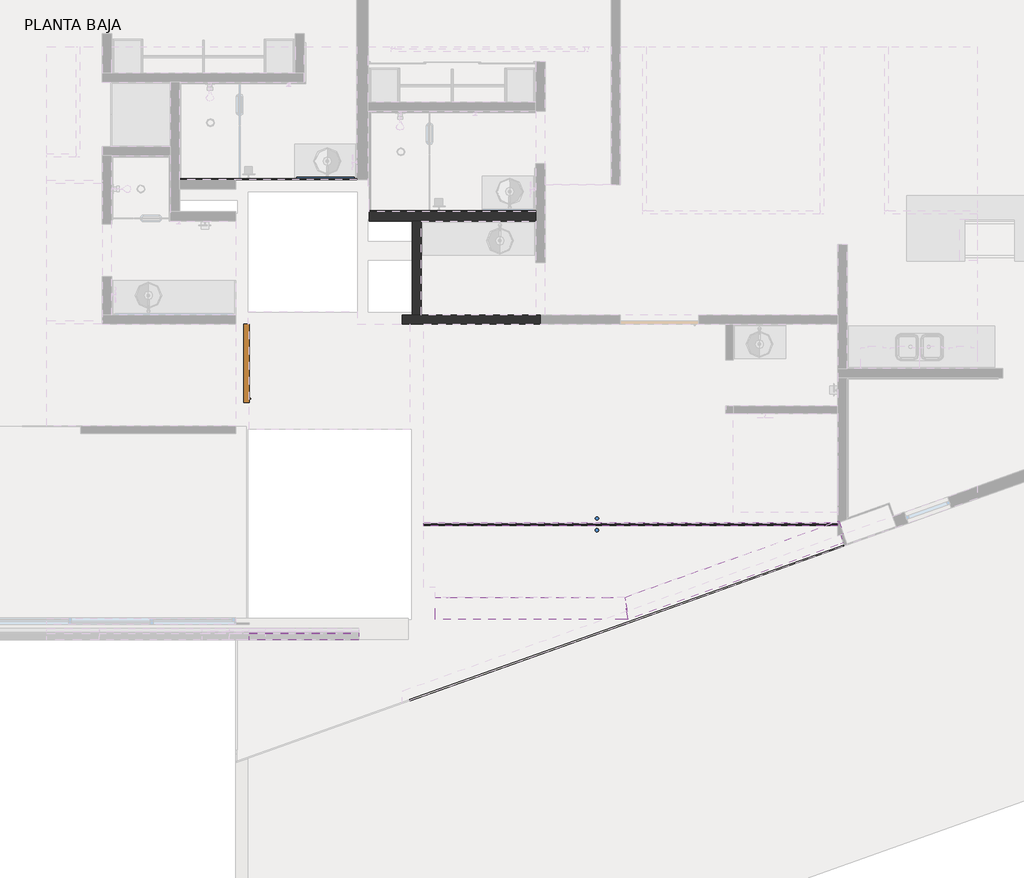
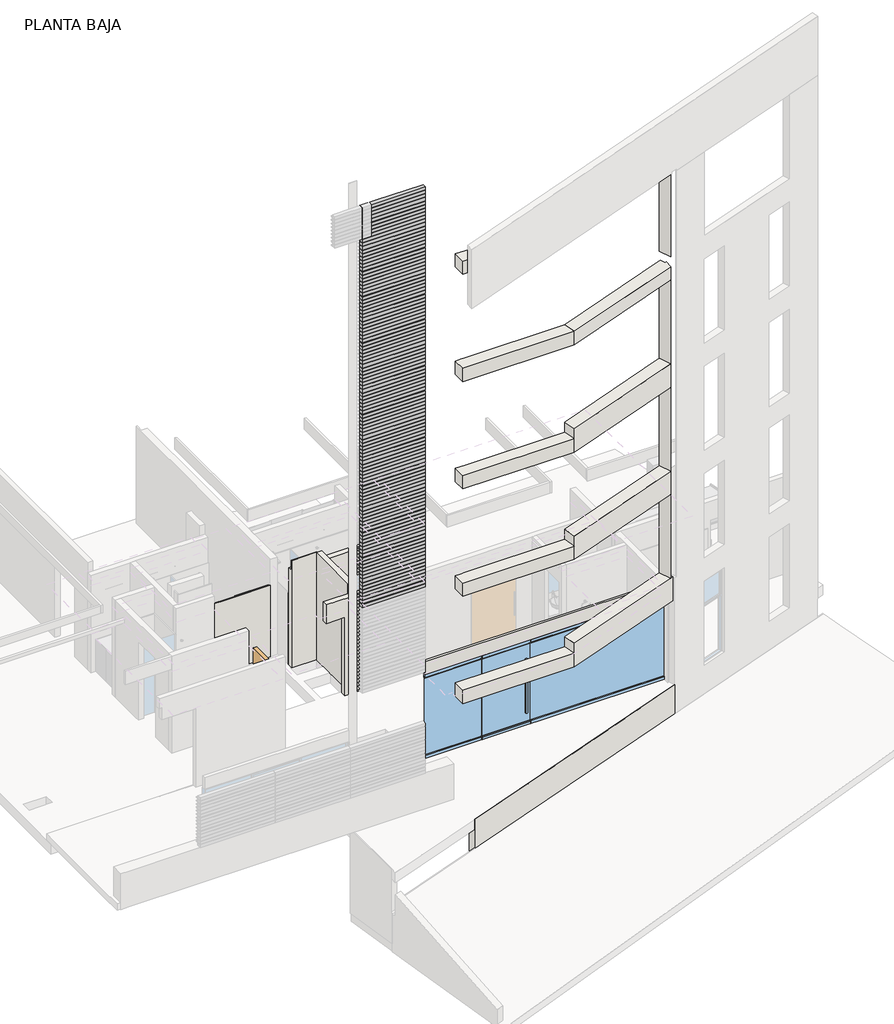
# One storey, part 4 of 8: 112 plates, 9 walls, 2 windows, 1 door.
"""IFC4 building model written with IfcOpenShell, lengths in millimetres."""

from ifc_helpers import new_model, si_unit, frame, origin, place, context, project, spatial, polyline, outline, extrude, faceted_brep, transform, mapped, element, save
from components import door_120_x_220_cm_1a80d65d, plate_64fcae3b, window_fa425d28, window_f6d1640f

model = new_model("IFC4")

# Units and contexts
model_context = context("Model", 3, world=origin())
ifc_project = project(units=[si_unit("LENGTHUNIT", "METRE", prefix="MILLI")], contexts=[model_context])

# Site, building, storey
site = spatial("IfcSite", under=ifc_project)
building = spatial("IfcBuilding", under=site)
storey = spatial("IfcBuildingStorey", under=building, Name="PLANTA BAJA", Elevation=0.0)

# Door
placement = place(None, origin())
door_120_x_220_cm_shape = door_120_x_220_cm_1a80d65d(model_context)
element("IfcDoor", 1, ObjectType="PUERTA ACCESO_PIVOT : 120 x 220 cm", at=placement, inside=storey, context=model_context, shape_type="MappedRepresentation", body=[
    mapped(door_120_x_220_cm_shape, transform((40339.5059119, 28707.1436004, 0.0), x_axis=(0.0, 1.0, 0.0), y_axis=(-1.0, 0.0, 0.0), z_axis=(0.0, 0.0, 1.0))),
])

# Plates
plate_shape = plate_64fcae3b(model_context)
element("IfcPlate", 2, ObjectType="Panel del sistema vacío : Vacío", at=placement, inside=storey, context=model_context, shape_type="MappedRepresentation", body=[
    mapped(plate_shape, transform((41279.5059119, 25044.0111729, 6218.7086093), x_axis=(-1.0, 0.0, 0.0), y_axis=(0.0, -1.0, 0.0), z_axis=(0.0, 0.0, 1.0))),
])
element("IfcPlate", 3, ObjectType="Panel del sistema vacío : Vacío", at=placement, inside=storey, context=model_context, shape_type="MappedRepresentation", body=[
    mapped(plate_shape, transform((41279.5059119, 25044.0111729, 6318.6754967), x_axis=(-1.0, 0.0, 0.0), y_axis=(0.0, -1.0, 0.0), z_axis=(0.0, 0.0, 1.0))),
])
element("IfcPlate", 4, ObjectType="Panel del sistema vacío : Vacío", at=placement, inside=storey, context=model_context, shape_type="MappedRepresentation", body=[
    mapped(plate_shape, transform((41279.5059119, 25044.0111729, 6418.6423841), x_axis=(-1.0, 0.0, 0.0), y_axis=(0.0, -1.0, 0.0), z_axis=(0.0, 0.0, 1.0))),
])
element("IfcPlate", 5, ObjectType="Panel del sistema vacío : Vacío", at=placement, inside=storey, context=model_context, shape_type="MappedRepresentation", body=[
    mapped(plate_shape, transform((41279.5059119, 25044.0111729, 6518.6092715), x_axis=(-1.0, 0.0, 0.0), y_axis=(0.0, -1.0, 0.0), z_axis=(0.0, 0.0, 1.0))),
])
element("IfcPlate", 6, ObjectType="Panel del sistema vacío : Vacío", at=placement, inside=storey, context=model_context, shape_type="MappedRepresentation", body=[
    mapped(plate_shape, transform((41279.5059119, 25044.0111729, 6618.5761589), x_axis=(-1.0, 0.0, 0.0), y_axis=(0.0, -1.0, 0.0), z_axis=(0.0, 0.0, 1.0))),
])
element("IfcPlate", 7, ObjectType="Panel del sistema vacío : Vacío", at=placement, inside=storey, context=model_context, shape_type="MappedRepresentation", body=[
    mapped(plate_shape, transform((41279.5059119, 25044.0111729, 6718.5430464), x_axis=(-1.0, 0.0, 0.0), y_axis=(0.0, -1.0, 0.0), z_axis=(0.0, 0.0, 1.0))),
])
element("IfcPlate", 8, ObjectType="Panel del sistema vacío : Vacío", at=placement, inside=storey, context=model_context, shape_type="MappedRepresentation", body=[
    mapped(plate_shape, transform((41279.5059119, 25044.0111729, 6818.5099338), x_axis=(-1.0, 0.0, 0.0), y_axis=(0.0, -1.0, 0.0), z_axis=(0.0, 0.0, 1.0))),
])
element("IfcPlate", 9, ObjectType="Panel del sistema vacío : Vacío", at=placement, inside=storey, context=model_context, shape_type="MappedRepresentation", body=[
    mapped(plate_shape, transform((41279.5059119, 25044.0111729, 6918.4768212), x_axis=(-1.0, 0.0, 0.0), y_axis=(0.0, -1.0, 0.0), z_axis=(0.0, 0.0, 1.0))),
])
element("IfcPlate", 10, ObjectType="Panel del sistema vacío : Vacío", at=placement, inside=storey, context=model_context, shape_type="MappedRepresentation", body=[
    mapped(plate_shape, transform((41279.5059119, 25044.0111729, 7018.4437086), x_axis=(-1.0, 0.0, 0.0), y_axis=(0.0, -1.0, 0.0), z_axis=(0.0, 0.0, 1.0))),
])
element("IfcPlate", 11, ObjectType="Panel del sistema vacío : Vacío", at=placement, inside=storey, context=model_context, shape_type="MappedRepresentation", body=[
    mapped(plate_shape, transform((41279.5059119, 25044.0111729, 7118.410596), x_axis=(-1.0, 0.0, 0.0), y_axis=(0.0, -1.0, 0.0), z_axis=(0.0, 0.0, 1.0))),
])
element("IfcPlate", 12, ObjectType="Panel del sistema vacío : Vacío", at=placement, inside=storey, context=model_context, shape_type="MappedRepresentation", body=[
    mapped(plate_shape, transform((41279.5059119, 25044.0111729, 7218.3774834), x_axis=(-1.0, 0.0, 0.0), y_axis=(0.0, -1.0, 0.0), z_axis=(0.0, 0.0, 1.0))),
])
element("IfcPlate", 13, ObjectType="Panel del sistema vacío : Vacío", at=placement, inside=storey, context=model_context, shape_type="MappedRepresentation", body=[
    mapped(plate_shape, transform((41279.5059119, 25044.0111729, 7318.3443709), x_axis=(-1.0, 0.0, 0.0), y_axis=(0.0, -1.0, 0.0), z_axis=(0.0, 0.0, 1.0))),
])
element("IfcPlate", 14, ObjectType="Panel del sistema vacío : Vacío", at=placement, inside=storey, context=model_context, shape_type="MappedRepresentation", body=[
    mapped(plate_shape, transform((41279.5059119, 25044.0111729, 7418.3112583), x_axis=(-1.0, 0.0, 0.0), y_axis=(0.0, -1.0, 0.0), z_axis=(0.0, 0.0, 1.0))),
])
element("IfcPlate", 15, ObjectType="Panel del sistema vacío : Vacío", at=placement, inside=storey, context=model_context, shape_type="MappedRepresentation", body=[
    mapped(plate_shape, transform((41279.5059119, 25044.0111729, 7518.2781457), x_axis=(-1.0, 0.0, 0.0), y_axis=(0.0, -1.0, 0.0), z_axis=(0.0, 0.0, 1.0))),
])
element("IfcPlate", 16, ObjectType="Panel del sistema vacío : Vacío", at=placement, inside=storey, context=model_context, shape_type="MappedRepresentation", body=[
    mapped(plate_shape, transform((41279.5059119, 25044.0111729, 7618.2450331), x_axis=(-1.0, 0.0, 0.0), y_axis=(0.0, -1.0, 0.0), z_axis=(0.0, 0.0, 1.0))),
])
element("IfcPlate", 17, ObjectType="Panel del sistema vacío : Vacío", at=placement, inside=storey, context=model_context, shape_type="MappedRepresentation", body=[
    mapped(plate_shape, transform((41279.5059119, 25044.0111729, 7718.2119205), x_axis=(-1.0, 0.0, 0.0), y_axis=(0.0, -1.0, 0.0), z_axis=(0.0, 0.0, 1.0))),
])
element("IfcPlate", 18, ObjectType="Panel del sistema vacío : Vacío", at=placement, inside=storey, context=model_context, shape_type="MappedRepresentation", body=[
    mapped(plate_shape, transform((41279.5059119, 25044.0111729, 7818.1788079), x_axis=(-1.0, 0.0, 0.0), y_axis=(0.0, -1.0, 0.0), z_axis=(0.0, 0.0, 1.0))),
])
element("IfcPlate", 19, ObjectType="Panel del sistema vacío : Vacío", at=placement, inside=storey, context=model_context, shape_type="MappedRepresentation", body=[
    mapped(plate_shape, transform((41279.5059119, 25044.0111729, 7918.1456954), x_axis=(-1.0, 0.0, 0.0), y_axis=(0.0, -1.0, 0.0), z_axis=(0.0, 0.0, 1.0))),
])
element("IfcPlate", 20, ObjectType="Panel del sistema vacío : Vacío", at=placement, inside=storey, context=model_context, shape_type="MappedRepresentation", body=[
    mapped(plate_shape, transform((41279.5059119, 25044.0111729, 8018.1125828), x_axis=(-1.0, 0.0, 0.0), y_axis=(0.0, -1.0, 0.0), z_axis=(0.0, 0.0, 1.0))),
])
element("IfcPlate", 21, ObjectType="Panel del sistema vacío : Vacío", at=placement, inside=storey, context=model_context, shape_type="MappedRepresentation", body=[
    mapped(plate_shape, transform((41279.5059119, 25044.0111729, 8118.0794702), x_axis=(-1.0, 0.0, 0.0), y_axis=(0.0, -1.0, 0.0), z_axis=(0.0, 0.0, 1.0))),
])
element("IfcPlate", 22, ObjectType="Panel del sistema vacío : Vacío", at=placement, inside=storey, context=model_context, shape_type="MappedRepresentation", body=[
    mapped(plate_shape, transform((41279.5059119, 25044.0111729, 8218.0463576), x_axis=(-1.0, 0.0, 0.0), y_axis=(0.0, -1.0, 0.0), z_axis=(0.0, 0.0, 1.0))),
])
element("IfcPlate", 23, ObjectType="Panel del sistema vacío : Vacío", at=placement, inside=storey, context=model_context, shape_type="MappedRepresentation", body=[
    mapped(plate_shape, transform((41279.5059119, 25044.0111729, 8318.013245), x_axis=(-1.0, 0.0, 0.0), y_axis=(0.0, -1.0, 0.0), z_axis=(0.0, 0.0, 1.0))),
])
element("IfcPlate", 24, ObjectType="Panel del sistema vacío : Vacío", at=placement, inside=storey, context=model_context, shape_type="MappedRepresentation", body=[
    mapped(plate_shape, transform((41279.5059119, 25044.0111729, 8417.9801325), x_axis=(-1.0, 0.0, 0.0), y_axis=(0.0, -1.0, 0.0), z_axis=(0.0, 0.0, 1.0))),
])
element("IfcPlate", 25, ObjectType="Panel del sistema vacío : Vacío", at=placement, inside=storey, context=model_context, shape_type="MappedRepresentation", body=[
    mapped(plate_shape, transform((41279.5059119, 25044.0111729, 8517.9470199), x_axis=(-1.0, 0.0, 0.0), y_axis=(0.0, -1.0, 0.0), z_axis=(0.0, 0.0, 1.0))),
])
element("IfcPlate", 26, ObjectType="Panel del sistema vacío : Vacío", at=placement, inside=storey, context=model_context, shape_type="MappedRepresentation", body=[
    mapped(plate_shape, transform((41279.5059119, 25044.0111729, 8617.9139073), x_axis=(-1.0, 0.0, 0.0), y_axis=(0.0, -1.0, 0.0), z_axis=(0.0, 0.0, 1.0))),
])
element("IfcPlate", 27, ObjectType="Panel del sistema vacío : Vacío", at=placement, inside=storey, context=model_context, shape_type="MappedRepresentation", body=[
    mapped(plate_shape, transform((41279.5059119, 25044.0111729, 8717.8807947), x_axis=(-1.0, 0.0, 0.0), y_axis=(0.0, -1.0, 0.0), z_axis=(0.0, 0.0, 1.0))),
])
element("IfcPlate", 28, ObjectType="Panel del sistema vacío : Vacío", at=placement, inside=storey, context=model_context, shape_type="MappedRepresentation", body=[
    mapped(plate_shape, transform((41279.5059119, 25044.0111729, 8817.8476821), x_axis=(-1.0, 0.0, 0.0), y_axis=(0.0, -1.0, 0.0), z_axis=(0.0, 0.0, 1.0))),
])
element("IfcPlate", 29, ObjectType="Panel del sistema vacío : Vacío", at=placement, inside=storey, context=model_context, shape_type="MappedRepresentation", body=[
    mapped(plate_shape, transform((41279.5059119, 25044.0111729, 8917.8145695), x_axis=(-1.0, 0.0, 0.0), y_axis=(0.0, -1.0, 0.0), z_axis=(0.0, 0.0, 1.0))),
])
element("IfcPlate", 30, ObjectType="Panel del sistema vacío : Vacío", at=placement, inside=storey, context=model_context, shape_type="MappedRepresentation", body=[
    mapped(plate_shape, transform((41279.5059119, 25044.0111729, 9017.781457), x_axis=(-1.0, 0.0, 0.0), y_axis=(0.0, -1.0, 0.0), z_axis=(0.0, 0.0, 1.0))),
])
element("IfcPlate", 31, ObjectType="Panel del sistema vacío : Vacío", at=placement, inside=storey, context=model_context, shape_type="MappedRepresentation", body=[
    mapped(plate_shape, transform((41279.5059119, 25044.0111729, 9117.7483444), x_axis=(-1.0, 0.0, 0.0), y_axis=(0.0, -1.0, 0.0), z_axis=(0.0, 0.0, 1.0))),
])
element("IfcPlate", 32, ObjectType="Panel del sistema vacío : Vacío", at=placement, inside=storey, context=model_context, shape_type="MappedRepresentation", body=[
    mapped(plate_shape, transform((41279.5059119, 25044.0111729, 9217.7152318), x_axis=(-1.0, 0.0, 0.0), y_axis=(0.0, -1.0, 0.0), z_axis=(0.0, 0.0, 1.0))),
])
element("IfcPlate", 33, ObjectType="Panel del sistema vacío : Vacío", at=placement, inside=storey, context=model_context, shape_type="MappedRepresentation", body=[
    mapped(plate_shape, transform((41279.5059119, 25044.0111729, 9317.6821192), x_axis=(-1.0, 0.0, 0.0), y_axis=(0.0, -1.0, 0.0), z_axis=(0.0, 0.0, 1.0))),
])
element("IfcPlate", 34, ObjectType="Panel del sistema vacío : Vacío", at=placement, inside=storey, context=model_context, shape_type="MappedRepresentation", body=[
    mapped(plate_shape, transform((41279.5059119, 25044.0111729, 9417.6490066), x_axis=(-1.0, 0.0, 0.0), y_axis=(0.0, -1.0, 0.0), z_axis=(0.0, 0.0, 1.0))),
])
element("IfcPlate", 35, ObjectType="Panel del sistema vacío : Vacío", at=placement, inside=storey, context=model_context, shape_type="MappedRepresentation", body=[
    mapped(plate_shape, transform((41279.5059119, 25044.0111729, 9517.615894), x_axis=(-1.0, 0.0, 0.0), y_axis=(0.0, -1.0, 0.0), z_axis=(0.0, 0.0, 1.0))),
])
element("IfcPlate", 36, ObjectType="Panel del sistema vacío : Vacío", at=placement, inside=storey, context=model_context, shape_type="MappedRepresentation", body=[
    mapped(plate_shape, transform((41279.5059119, 25044.0111729, 9617.5827815), x_axis=(-1.0, 0.0, 0.0), y_axis=(0.0, -1.0, 0.0), z_axis=(0.0, 0.0, 1.0))),
])
element("IfcPlate", 37, ObjectType="Panel del sistema vacío : Vacío", at=placement, inside=storey, context=model_context, shape_type="MappedRepresentation", body=[
    mapped(plate_shape, transform((41279.5059119, 25044.0111729, 9717.5496689), x_axis=(-1.0, 0.0, 0.0), y_axis=(0.0, -1.0, 0.0), z_axis=(0.0, 0.0, 1.0))),
])
element("IfcPlate", 38, ObjectType="Panel del sistema vacío : Vacío", at=placement, inside=storey, context=model_context, shape_type="MappedRepresentation", body=[
    mapped(plate_shape, transform((41279.5059119, 25044.0111729, 9817.5165563), x_axis=(-1.0, 0.0, 0.0), y_axis=(0.0, -1.0, 0.0), z_axis=(0.0, 0.0, 1.0))),
])
element("IfcPlate", 39, ObjectType="Panel del sistema vacío : Vacío", at=placement, inside=storey, context=model_context, shape_type="MappedRepresentation", body=[
    mapped(plate_shape, transform((41279.5059119, 25044.0111729, 9917.4834437), x_axis=(-1.0, 0.0, 0.0), y_axis=(0.0, -1.0, 0.0), z_axis=(0.0, 0.0, 1.0))),
])
element("IfcPlate", 40, ObjectType="Panel del sistema vacío : Vacío", at=placement, inside=storey, context=model_context, shape_type="MappedRepresentation", body=[
    mapped(plate_shape, transform((41279.5059119, 25044.0111729, 10017.4503311), x_axis=(-1.0, 0.0, 0.0), y_axis=(0.0, -1.0, 0.0), z_axis=(0.0, 0.0, 1.0))),
])
element("IfcPlate", 41, ObjectType="Panel del sistema vacío : Vacío", at=placement, inside=storey, context=model_context, shape_type="MappedRepresentation", body=[
    mapped(plate_shape, transform((41279.5059119, 25044.0111729, 10117.4172185), x_axis=(-1.0, 0.0, 0.0), y_axis=(0.0, -1.0, 0.0), z_axis=(0.0, 0.0, 1.0))),
])
element("IfcPlate", 42, ObjectType="Panel del sistema vacío : Vacío", at=placement, inside=storey, context=model_context, shape_type="MappedRepresentation", body=[
    mapped(plate_shape, transform((41279.5059119, 25044.0111729, 10217.384106), x_axis=(-1.0, 0.0, 0.0), y_axis=(0.0, -1.0, 0.0), z_axis=(0.0, 0.0, 1.0))),
])
element("IfcPlate", 43, ObjectType="Panel del sistema vacío : Vacío", at=placement, inside=storey, context=model_context, shape_type="MappedRepresentation", body=[
    mapped(plate_shape, transform((41279.5059119, 25044.0111729, 10317.3509934), x_axis=(-1.0, 0.0, 0.0), y_axis=(0.0, -1.0, 0.0), z_axis=(0.0, 0.0, 1.0))),
])
element("IfcPlate", 44, ObjectType="Panel del sistema vacío : Vacío", at=placement, inside=storey, context=model_context, shape_type="MappedRepresentation", body=[
    mapped(plate_shape, transform((41279.5059119, 25044.0111729, 10417.3178808), x_axis=(-1.0, 0.0, 0.0), y_axis=(0.0, -1.0, 0.0), z_axis=(0.0, 0.0, 1.0))),
])
element("IfcPlate", 45, ObjectType="Panel del sistema vacío : Vacío", at=placement, inside=storey, context=model_context, shape_type="MappedRepresentation", body=[
    mapped(plate_shape, transform((41279.5059119, 25044.0111729, 10517.2847682), x_axis=(-1.0, 0.0, 0.0), y_axis=(0.0, -1.0, 0.0), z_axis=(0.0, 0.0, 1.0))),
])
element("IfcPlate", 46, ObjectType="Panel del sistema vacío : Vacío", at=placement, inside=storey, context=model_context, shape_type="MappedRepresentation", body=[
    mapped(plate_shape, transform((41279.5059119, 25044.0111729, 10617.2516556), x_axis=(-1.0, 0.0, 0.0), y_axis=(0.0, -1.0, 0.0), z_axis=(0.0, 0.0, 1.0))),
])
element("IfcPlate", 47, ObjectType="Panel del sistema vacío : Vacío", at=placement, inside=storey, context=model_context, shape_type="MappedRepresentation", body=[
    mapped(plate_shape, transform((41279.5059119, 25044.0111729, 10717.218543), x_axis=(-1.0, 0.0, 0.0), y_axis=(0.0, -1.0, 0.0), z_axis=(0.0, 0.0, 1.0))),
])
element("IfcPlate", 48, ObjectType="Panel del sistema vacío : Vacío", at=placement, inside=storey, context=model_context, shape_type="MappedRepresentation", body=[
    mapped(plate_shape, transform((41279.5059119, 25044.0111729, 10817.1854305), x_axis=(-1.0, 0.0, 0.0), y_axis=(0.0, -1.0, 0.0), z_axis=(0.0, 0.0, 1.0))),
])
element("IfcPlate", 49, ObjectType="Panel del sistema vacío : Vacío", at=placement, inside=storey, context=model_context, shape_type="MappedRepresentation", body=[
    mapped(plate_shape, transform((41279.5059119, 25044.0111729, 10917.1523179), x_axis=(-1.0, 0.0, 0.0), y_axis=(0.0, -1.0, 0.0), z_axis=(0.0, 0.0, 1.0))),
])
element("IfcPlate", 50, ObjectType="Panel del sistema vacío : Vacío", at=placement, inside=storey, context=model_context, shape_type="MappedRepresentation", body=[
    mapped(plate_shape, transform((41279.5059119, 25044.0111729, 11017.1192053), x_axis=(-1.0, 0.0, 0.0), y_axis=(0.0, -1.0, 0.0), z_axis=(0.0, 0.0, 1.0))),
])
element("IfcPlate", 51, ObjectType="Panel del sistema vacío : Vacío", at=placement, inside=storey, context=model_context, shape_type="MappedRepresentation", body=[
    mapped(plate_shape, transform((41279.5059119, 25044.0111729, 11117.0860927), x_axis=(-1.0, 0.0, 0.0), y_axis=(0.0, -1.0, 0.0), z_axis=(0.0, 0.0, 1.0))),
])
element("IfcPlate", 52, ObjectType="Panel del sistema vacío : Vacío", at=placement, inside=storey, context=model_context, shape_type="MappedRepresentation", body=[
    mapped(plate_shape, transform((41279.5059119, 25044.0111729, 11217.0529801), x_axis=(-1.0, 0.0, 0.0), y_axis=(0.0, -1.0, 0.0), z_axis=(0.0, 0.0, 1.0))),
])
element("IfcPlate", 53, ObjectType="Panel del sistema vacío : Vacío", at=placement, inside=storey, context=model_context, shape_type="MappedRepresentation", body=[
    mapped(plate_shape, transform((41279.5059119, 25044.0111729, 11317.0198675), x_axis=(-1.0, 0.0, 0.0), y_axis=(0.0, -1.0, 0.0), z_axis=(0.0, 0.0, 1.0))),
])
element("IfcPlate", 54, ObjectType="Panel del sistema vacío : Vacío", at=placement, inside=storey, context=model_context, shape_type="MappedRepresentation", body=[
    mapped(plate_shape, transform((41279.5059119, 25044.0111729, 11416.986755), x_axis=(-1.0, 0.0, 0.0), y_axis=(0.0, -1.0, 0.0), z_axis=(0.0, 0.0, 1.0))),
])
element("IfcPlate", 55, ObjectType="Panel del sistema vacío : Vacío", at=placement, inside=storey, context=model_context, shape_type="MappedRepresentation", body=[
    mapped(plate_shape, transform((41279.5059119, 25044.0111729, 11516.9536424), x_axis=(-1.0, 0.0, 0.0), y_axis=(0.0, -1.0, 0.0), z_axis=(0.0, 0.0, 1.0))),
])
element("IfcPlate", 56, ObjectType="Panel del sistema vacío : Vacío", at=placement, inside=storey, context=model_context, shape_type="MappedRepresentation", body=[
    mapped(plate_shape, transform((41279.5059119, 25044.0111729, 11616.9205298), x_axis=(-1.0, 0.0, 0.0), y_axis=(0.0, -1.0, 0.0), z_axis=(0.0, 0.0, 1.0))),
])
element("IfcPlate", 57, ObjectType="Panel del sistema vacío : Vacío", at=placement, inside=storey, context=model_context, shape_type="MappedRepresentation", body=[
    mapped(plate_shape, transform((41279.5059119, 25044.0111729, 11716.8874172), x_axis=(-1.0, 0.0, 0.0), y_axis=(0.0, -1.0, 0.0), z_axis=(0.0, 0.0, 1.0))),
])
element("IfcPlate", 58, ObjectType="Panel del sistema vacío : Vacío", at=placement, inside=storey, context=model_context, shape_type="MappedRepresentation", body=[
    mapped(plate_shape, transform((41279.5059119, 25044.0111729, 11816.8543046), x_axis=(-1.0, 0.0, 0.0), y_axis=(0.0, -1.0, 0.0), z_axis=(0.0, 0.0, 1.0))),
])
element("IfcPlate", 59, ObjectType="Panel del sistema vacío : Vacío", at=placement, inside=storey, context=model_context, shape_type="MappedRepresentation", body=[
    mapped(plate_shape, transform((41279.5059119, 25044.0111729, 11916.8211921), x_axis=(-1.0, 0.0, 0.0), y_axis=(0.0, -1.0, 0.0), z_axis=(0.0, 0.0, 1.0))),
])
element("IfcPlate", 60, ObjectType="Panel del sistema vacío : Vacío", at=placement, inside=storey, context=model_context, shape_type="MappedRepresentation", body=[
    mapped(plate_shape, transform((41279.5059119, 25044.0111729, 12016.7880795), x_axis=(-1.0, 0.0, 0.0), y_axis=(0.0, -1.0, 0.0), z_axis=(0.0, 0.0, 1.0))),
])
element("IfcPlate", 61, ObjectType="Panel del sistema vacío : Vacío", at=placement, inside=storey, context=model_context, shape_type="MappedRepresentation", body=[
    mapped(plate_shape, transform((41279.5059119, 25044.0111729, 12116.7549669), x_axis=(-1.0, 0.0, 0.0), y_axis=(0.0, -1.0, 0.0), z_axis=(0.0, 0.0, 1.0))),
])
element("IfcPlate", 62, ObjectType="Panel del sistema vacío : Vacío", at=placement, inside=storey, context=model_context, shape_type="MappedRepresentation", body=[
    mapped(plate_shape, transform((41279.5059119, 25044.0111729, 12216.7218543), x_axis=(-1.0, 0.0, 0.0), y_axis=(0.0, -1.0, 0.0), z_axis=(0.0, 0.0, 1.0))),
])
element("IfcPlate", 63, ObjectType="Panel del sistema vacío : Vacío", at=placement, inside=storey, context=model_context, shape_type="MappedRepresentation", body=[
    mapped(plate_shape, transform((41279.5059119, 25044.0111729, 12316.6887417), x_axis=(-1.0, 0.0, 0.0), y_axis=(0.0, -1.0, 0.0), z_axis=(0.0, 0.0, 1.0))),
])
element("IfcPlate", 64, ObjectType="Panel del sistema vacío : Vacío", at=placement, inside=storey, context=model_context, shape_type="MappedRepresentation", body=[
    mapped(plate_shape, transform((41279.5059119, 25044.0111729, 12416.6556291), x_axis=(-1.0, 0.0, 0.0), y_axis=(0.0, -1.0, 0.0), z_axis=(0.0, 0.0, 1.0))),
])
element("IfcPlate", 65, ObjectType="Panel del sistema vacío : Vacío", at=placement, inside=storey, context=model_context, shape_type="MappedRepresentation", body=[
    mapped(plate_shape, transform((41279.5059119, 25044.0111729, 12516.6225166), x_axis=(-1.0, 0.0, 0.0), y_axis=(0.0, -1.0, 0.0), z_axis=(0.0, 0.0, 1.0))),
])
element("IfcPlate", 66, ObjectType="Panel del sistema vacío : Vacío", at=placement, inside=storey, context=model_context, shape_type="MappedRepresentation", body=[
    mapped(plate_shape, transform((41279.5059119, 25044.0111729, 12616.589404), x_axis=(-1.0, 0.0, 0.0), y_axis=(0.0, -1.0, 0.0), z_axis=(0.0, 0.0, 1.0))),
])
element("IfcPlate", 67, ObjectType="Panel del sistema vacío : Vacío", at=placement, inside=storey, context=model_context, shape_type="MappedRepresentation", body=[
    mapped(plate_shape, transform((41279.5059119, 25044.0111729, 12716.5562914), x_axis=(-1.0, 0.0, 0.0), y_axis=(0.0, -1.0, 0.0), z_axis=(0.0, 0.0, 1.0))),
])
element("IfcPlate", 68, ObjectType="Panel del sistema vacío : Vacío", at=placement, inside=storey, context=model_context, shape_type="MappedRepresentation", body=[
    mapped(plate_shape, transform((41279.5059119, 25044.0111729, 12816.5231788), x_axis=(-1.0, 0.0, 0.0), y_axis=(0.0, -1.0, 0.0), z_axis=(0.0, 0.0, 1.0))),
])
element("IfcPlate", 69, ObjectType="Panel del sistema vacío : Vacío", at=placement, inside=storey, context=model_context, shape_type="MappedRepresentation", body=[
    mapped(plate_shape, transform((41279.5059119, 25044.0111729, 12916.4900662), x_axis=(-1.0, 0.0, 0.0), y_axis=(0.0, -1.0, 0.0), z_axis=(0.0, 0.0, 1.0))),
])
element("IfcPlate", 70, ObjectType="Panel del sistema vacío : Vacío", at=placement, inside=storey, context=model_context, shape_type="MappedRepresentation", body=[
    mapped(plate_shape, transform((41279.5059119, 25044.0111729, 13016.4569536), x_axis=(-1.0, 0.0, 0.0), y_axis=(0.0, -1.0, 0.0), z_axis=(0.0, 0.0, 1.0))),
])
element("IfcPlate", 71, ObjectType="Panel del sistema vacío : Vacío", at=placement, inside=storey, context=model_context, shape_type="MappedRepresentation", body=[
    mapped(plate_shape, transform((41279.5059119, 25044.0111729, 13116.4238411), x_axis=(-1.0, 0.0, 0.0), y_axis=(0.0, -1.0, 0.0), z_axis=(0.0, 0.0, 1.0))),
])
element("IfcPlate", 72, ObjectType="Panel del sistema vacío : Vacío", at=placement, inside=storey, context=model_context, shape_type="MappedRepresentation", body=[
    mapped(plate_shape, transform((41279.5059119, 25044.0111729, 13216.3907285), x_axis=(-1.0, 0.0, 0.0), y_axis=(0.0, -1.0, 0.0), z_axis=(0.0, 0.0, 1.0))),
])
element("IfcPlate", 73, ObjectType="Panel del sistema vacío : Vacío", at=placement, inside=storey, context=model_context, shape_type="MappedRepresentation", body=[
    mapped(plate_shape, transform((41279.5059119, 25044.0111729, 13316.3576159), x_axis=(-1.0, 0.0, 0.0), y_axis=(0.0, -1.0, 0.0), z_axis=(0.0, 0.0, 1.0))),
])
element("IfcPlate", 74, ObjectType="Panel del sistema vacío : Vacío", at=placement, inside=storey, context=model_context, shape_type="MappedRepresentation", body=[
    mapped(plate_shape, transform((41279.5059119, 25044.0111729, 13416.3245033), x_axis=(-1.0, 0.0, 0.0), y_axis=(0.0, -1.0, 0.0), z_axis=(0.0, 0.0, 1.0))),
])
element("IfcPlate", 75, ObjectType="Panel del sistema vacío : Vacío", at=placement, inside=storey, context=model_context, shape_type="MappedRepresentation", body=[
    mapped(plate_shape, transform((41279.5059119, 25044.0111729, 13516.2913907), x_axis=(-1.0, 0.0, 0.0), y_axis=(0.0, -1.0, 0.0), z_axis=(0.0, 0.0, 1.0))),
])
element("IfcPlate", 76, ObjectType="Panel del sistema vacío : Vacío", at=placement, inside=storey, context=model_context, shape_type="MappedRepresentation", body=[
    mapped(plate_shape, transform((41279.5059119, 25044.0111729, 13616.2582781), x_axis=(-1.0, 0.0, 0.0), y_axis=(0.0, -1.0, 0.0), z_axis=(0.0, 0.0, 1.0))),
])
element("IfcPlate", 77, ObjectType="Panel del sistema vacío : Vacío", at=placement, inside=storey, context=model_context, shape_type="MappedRepresentation", body=[
    mapped(plate_shape, transform((41279.5059119, 25044.0111729, 13716.2251656), x_axis=(-1.0, 0.0, 0.0), y_axis=(0.0, -1.0, 0.0), z_axis=(0.0, 0.0, 1.0))),
])
element("IfcPlate", 78, ObjectType="Panel del sistema vacío : Vacío", at=placement, inside=storey, context=model_context, shape_type="MappedRepresentation", body=[
    mapped(plate_shape, transform((41279.5059119, 25044.0111729, 13816.192053), x_axis=(-1.0, 0.0, 0.0), y_axis=(0.0, -1.0, 0.0), z_axis=(0.0, 0.0, 1.0))),
])
element("IfcPlate", 79, ObjectType="Panel del sistema vacío : Vacío", at=placement, inside=storey, context=model_context, shape_type="MappedRepresentation", body=[
    mapped(plate_shape, transform((41279.5059119, 25044.0111729, 13916.1589404), x_axis=(-1.0, 0.0, 0.0), y_axis=(0.0, -1.0, 0.0), z_axis=(0.0, 0.0, 1.0))),
])
element("IfcPlate", 80, ObjectType="Panel del sistema vacío : Vacío", at=placement, inside=storey, context=model_context, shape_type="MappedRepresentation", body=[
    mapped(plate_shape, transform((41279.5059119, 25044.0111729, 14016.1258278), x_axis=(-1.0, 0.0, 0.0), y_axis=(0.0, -1.0, 0.0), z_axis=(0.0, 0.0, 1.0))),
])
element("IfcPlate", 81, ObjectType="Panel del sistema vacío : Vacío", at=placement, inside=storey, context=model_context, shape_type="MappedRepresentation", body=[
    mapped(plate_shape, transform((41279.5059119, 25044.0111729, 14116.0927152), x_axis=(-1.0, 0.0, 0.0), y_axis=(0.0, -1.0, 0.0), z_axis=(0.0, 0.0, 1.0))),
])
element("IfcPlate", 82, ObjectType="Panel del sistema vacío : Vacío", at=placement, inside=storey, context=model_context, shape_type="MappedRepresentation", body=[
    mapped(plate_shape, transform((41279.5059119, 25044.0111729, 14216.0596026), x_axis=(-1.0, 0.0, 0.0), y_axis=(0.0, -1.0, 0.0), z_axis=(0.0, 0.0, 1.0))),
])
element("IfcPlate", 83, ObjectType="Panel del sistema vacío : Vacío", at=placement, inside=storey, context=model_context, shape_type="MappedRepresentation", body=[
    mapped(plate_shape, transform((41279.5059119, 25044.0111729, 14316.0264901), x_axis=(-1.0, 0.0, 0.0), y_axis=(0.0, -1.0, 0.0), z_axis=(0.0, 0.0, 1.0))),
])
element("IfcPlate", 84, ObjectType="Panel del sistema vacío : Vacío", at=placement, inside=storey, context=model_context, shape_type="MappedRepresentation", body=[
    mapped(plate_shape, transform((41279.5059119, 25044.0111729, 14415.9933775), x_axis=(-1.0, 0.0, 0.0), y_axis=(0.0, -1.0, 0.0), z_axis=(0.0, 0.0, 1.0))),
])
element("IfcPlate", 85, ObjectType="Panel del sistema vacío : Vacío", at=placement, inside=storey, context=model_context, shape_type="MappedRepresentation", body=[
    mapped(plate_shape, transform((41279.5059119, 25044.0111729, 14515.9602649), x_axis=(-1.0, 0.0, 0.0), y_axis=(0.0, -1.0, 0.0), z_axis=(0.0, 0.0, 1.0))),
])
element("IfcPlate", 86, ObjectType="Panel del sistema vacío : Vacío", at=placement, inside=storey, context=model_context, shape_type="MappedRepresentation", body=[
    mapped(plate_shape, transform((41279.5059119, 25044.0111729, 14615.9271523), x_axis=(-1.0, 0.0, 0.0), y_axis=(0.0, -1.0, 0.0), z_axis=(0.0, 0.0, 1.0))),
])
element("IfcPlate", 87, ObjectType="Panel del sistema vacío : Vacío", at=placement, inside=storey, context=model_context, shape_type="MappedRepresentation", body=[
    mapped(plate_shape, transform((41279.5059119, 25044.0111729, 14715.8940397), x_axis=(-1.0, 0.0, 0.0), y_axis=(0.0, -1.0, 0.0), z_axis=(0.0, 0.0, 1.0))),
])
element("IfcPlate", 88, ObjectType="Panel del sistema vacío : Vacío", at=placement, inside=storey, context=model_context, shape_type="MappedRepresentation", body=[
    mapped(plate_shape, transform((41279.5059119, 25044.0111729, 14815.8609272), x_axis=(-1.0, 0.0, 0.0), y_axis=(0.0, -1.0, 0.0), z_axis=(0.0, 0.0, 1.0))),
])
element("IfcPlate", 89, ObjectType="Panel del sistema vacío : Vacío", at=placement, inside=storey, context=model_context, shape_type="MappedRepresentation", body=[
    mapped(plate_shape, transform((41279.5059119, 25044.0111729, 14915.8278146), x_axis=(-1.0, 0.0, 0.0), y_axis=(0.0, -1.0, 0.0), z_axis=(0.0, 0.0, 1.0))),
])
element("IfcPlate", 90, ObjectType="Panel del sistema vacío : Vacío", at=placement, inside=storey, context=model_context, shape_type="MappedRepresentation", body=[
    mapped(plate_shape, transform((41279.5059119, 25044.0111729, 15015.794702), x_axis=(-1.0, 0.0, 0.0), y_axis=(0.0, -1.0, 0.0), z_axis=(0.0, 0.0, 1.0))),
])
element("IfcPlate", 91, ObjectType="Panel del sistema vacío : Vacío", at=placement, inside=storey, context=model_context, shape_type="MappedRepresentation", body=[
    mapped(plate_shape, transform((41279.5059119, 25044.0111729, 15115.7615894), x_axis=(-1.0, 0.0, 0.0), y_axis=(0.0, -1.0, 0.0), z_axis=(0.0, 0.0, 1.0))),
])
element("IfcPlate", 92, ObjectType="Panel del sistema vacío : Vacío", at=placement, inside=storey, context=model_context, shape_type="MappedRepresentation", body=[
    mapped(plate_shape, transform((41279.5059119, 25044.0111729, 15215.7284768), x_axis=(-1.0, 0.0, 0.0), y_axis=(0.0, -1.0, 0.0), z_axis=(0.0, 0.0, 1.0))),
])
element("IfcPlate", 93, ObjectType="Panel del sistema vacío : Vacío", at=placement, inside=storey, context=model_context, shape_type="MappedRepresentation", body=[
    mapped(plate_shape, transform((41279.5059119, 25044.0111729, 15315.6953642), x_axis=(-1.0, 0.0, 0.0), y_axis=(0.0, -1.0, 0.0), z_axis=(0.0, 0.0, 1.0))),
])
element("IfcPlate", 94, ObjectType="Panel del sistema vacío : Vacío", at=placement, inside=storey, context=model_context, shape_type="MappedRepresentation", body=[
    mapped(plate_shape, transform((41279.5059119, 25044.0111729, 15415.6622517), x_axis=(-1.0, 0.0, 0.0), y_axis=(0.0, -1.0, 0.0), z_axis=(0.0, 0.0, 1.0))),
])
element("IfcPlate", 95, ObjectType="Panel del sistema vacío : Vacío", at=placement, inside=storey, context=model_context, shape_type="MappedRepresentation", body=[
    mapped(plate_shape, transform((41279.5059119, 25044.0111729, 15515.6291391), x_axis=(-1.0, 0.0, 0.0), y_axis=(0.0, -1.0, 0.0), z_axis=(0.0, 0.0, 1.0))),
])
element("IfcPlate", 96, ObjectType="Panel del sistema vacío : Vacío", at=placement, inside=storey, context=model_context, shape_type="MappedRepresentation", body=[
    mapped(plate_shape, transform((41279.5059119, 25044.0111729, 15615.5960265), x_axis=(-1.0, 0.0, 0.0), y_axis=(0.0, -1.0, 0.0), z_axis=(0.0, 0.0, 1.0))),
])
element("IfcPlate", 97, ObjectType="Panel del sistema vacío : Vacío", at=placement, inside=storey, context=model_context, shape_type="MappedRepresentation", body=[
    mapped(plate_shape, transform((41279.5059119, 25044.0111729, 15715.5629139), x_axis=(-1.0, 0.0, 0.0), y_axis=(0.0, -1.0, 0.0), z_axis=(0.0, 0.0, 1.0))),
])
element("IfcPlate", 98, ObjectType="Panel del sistema vacío : Vacío", at=placement, inside=storey, context=model_context, shape_type="MappedRepresentation", body=[
    mapped(plate_shape, transform((41279.5059119, 25044.0111729, 15815.5298013), x_axis=(-1.0, 0.0, 0.0), y_axis=(0.0, -1.0, 0.0), z_axis=(0.0, 0.0, 1.0))),
])
element("IfcPlate", 99, ObjectType="Panel del sistema vacío : Vacío", at=placement, inside=storey, context=model_context, shape_type="MappedRepresentation", body=[
    mapped(plate_shape, transform((41279.5059119, 25044.0111729, 15915.4966887), x_axis=(-1.0, 0.0, 0.0), y_axis=(0.0, -1.0, 0.0), z_axis=(0.0, 0.0, 1.0))),
])
element("IfcPlate", 100, ObjectType="Panel del sistema vacío : Vacío", at=placement, inside=storey, context=model_context, shape_type="MappedRepresentation", body=[
    mapped(plate_shape, transform((41279.5059119, 25044.0111729, 16015.4635762), x_axis=(-1.0, 0.0, 0.0), y_axis=(0.0, -1.0, 0.0), z_axis=(0.0, 0.0, 1.0))),
])
element("IfcPlate", 101, ObjectType="Panel del sistema vacío : Vacío", at=placement, inside=storey, context=model_context, shape_type="MappedRepresentation", body=[
    mapped(plate_shape, transform((41279.5059119, 25044.0111729, 16115.4304636), x_axis=(-1.0, 0.0, 0.0), y_axis=(0.0, -1.0, 0.0), z_axis=(0.0, 0.0, 1.0))),
])
element("IfcPlate", 102, ObjectType="Panel del sistema vacío : Vacío", at=placement, inside=storey, context=model_context, shape_type="MappedRepresentation", body=[
    mapped(plate_shape, transform((41279.5059119, 25044.0111729, 16215.397351), x_axis=(-1.0, 0.0, 0.0), y_axis=(0.0, -1.0, 0.0), z_axis=(0.0, 0.0, 1.0))),
])
element("IfcPlate", 103, ObjectType="Panel del sistema vacío : Vacío", at=placement, inside=storey, context=model_context, shape_type="MappedRepresentation", body=[
    mapped(plate_shape, transform((41279.5059119, 25044.0111729, 16315.3642384), x_axis=(-1.0, 0.0, 0.0), y_axis=(0.0, -1.0, 0.0), z_axis=(0.0, 0.0, 1.0))),
])
element("IfcPlate", 104, ObjectType="Panel del sistema vacío : Vacío", at=placement, inside=storey, context=model_context, shape_type="MappedRepresentation", body=[
    mapped(plate_shape, transform((41279.5059119, 25044.0111729, 16415.3311258), x_axis=(-1.0, 0.0, 0.0), y_axis=(0.0, -1.0, 0.0), z_axis=(0.0, 0.0, 1.0))),
])
element("IfcPlate", 105, ObjectType="Panel del sistema vacío : Vacío", at=placement, inside=storey, context=model_context, shape_type="MappedRepresentation", body=[
    mapped(plate_shape, transform((41279.5059119, 25044.0111729, 16515.2980132), x_axis=(-1.0, 0.0, 0.0), y_axis=(0.0, -1.0, 0.0), z_axis=(0.0, 0.0, 1.0))),
])
element("IfcPlate", 106, ObjectType="Panel del sistema vacío : Vacío", at=placement, inside=storey, context=model_context, shape_type="MappedRepresentation", body=[
    mapped(plate_shape, transform((41279.5059119, 25044.0111729, 16615.2649007), x_axis=(-1.0, 0.0, 0.0), y_axis=(0.0, -1.0, 0.0), z_axis=(0.0, 0.0, 1.0))),
])
element("IfcPlate", 107, ObjectType="Panel del sistema vacío : Vacío", at=placement, inside=storey, context=model_context, shape_type="MappedRepresentation", body=[
    mapped(plate_shape, transform((41279.5059119, 25044.0111729, 16715.2317881), x_axis=(-1.0, 0.0, 0.0), y_axis=(0.0, -1.0, 0.0), z_axis=(0.0, 0.0, 1.0))),
])
element("IfcPlate", 108, ObjectType="Panel del sistema vacío : Vacío", at=placement, inside=storey, context=model_context, shape_type="MappedRepresentation", body=[
    mapped(plate_shape, transform((41279.5059119, 25044.0111729, 16815.1986755), x_axis=(-1.0, 0.0, 0.0), y_axis=(0.0, -1.0, 0.0), z_axis=(0.0, 0.0, 1.0))),
])
element("IfcPlate", 109, ObjectType="Panel del sistema vacío : Vacío", at=placement, inside=storey, context=model_context, shape_type="MappedRepresentation", body=[
    mapped(plate_shape, transform((41279.5059119, 25044.0111729, 16915.1655629), x_axis=(-1.0, 0.0, 0.0), y_axis=(0.0, -1.0, 0.0), z_axis=(0.0, 0.0, 1.0))),
])
element("IfcPlate", 110, ObjectType="Panel del sistema vacío : Vacío", at=placement, inside=storey, context=model_context, shape_type="MappedRepresentation", body=[
    mapped(plate_shape, transform((41279.5059119, 25044.0111729, 17015.1324503), x_axis=(-1.0, 0.0, 0.0), y_axis=(0.0, -1.0, 0.0), z_axis=(0.0, 0.0, 1.0))),
])
element("IfcPlate", 111, ObjectType="Panel del sistema vacío : Vacío", at=placement, inside=storey, context=model_context, shape_type="MappedRepresentation", body=[
    mapped(plate_shape, transform((41279.5059119, 25044.0111729, 17115.0993377), x_axis=(-1.0, 0.0, 0.0), y_axis=(0.0, -1.0, 0.0), z_axis=(0.0, 0.0, 1.0))),
])
element("IfcPlate", 112, ObjectType="Panel del sistema vacío : Vacío", at=placement, inside=storey, context=model_context, shape_type="MappedRepresentation", body=[
    mapped(plate_shape, transform((41279.5059119, 25044.0111729, 17215.0662252), x_axis=(-1.0, 0.0, 0.0), y_axis=(0.0, -1.0, 0.0), z_axis=(0.0, 0.0, 1.0))),
])
element("IfcPlate", 113, ObjectType="Panel del sistema vacío : Vacío", at=placement, inside=storey, context=model_context, shape_type="MappedRepresentation", body=[
    mapped(plate_shape, transform((41279.5059119, 25044.0111729, 17315.0331126), x_axis=(-1.0, 0.0, 0.0), y_axis=(0.0, -1.0, 0.0), z_axis=(0.0, 0.0, 1.0))),
])

# Walls
element("IfcWall", 114, ObjectType="Trabe 30cms_para ventana", at=placement, inside=storey, context=model_context, shape_type="Brep", body=[
    faceted_brep([(46181.4938279, 25545.2541962, 14900.0), (49444.5059119, 26708.0401696, 14900.0), (49444.5059119, 26708.0401696, 14720.0), (49444.5059119, 26708.0401696, 12000.0), (49330.9742496, 26667.5827575, 12000.0), (49330.9742496, 26667.5827575, 14350.0), (46255.0589031, 25571.4693726, 14350.0), (46255.0589031, 25571.4693726, 14419.2), (46181.4938279, 25545.2541962, 14419.2), (49444.5059119, 26347.0972425, 14900.0), (46240.2639075, 25205.2541962, 14900.0), (46240.2639075, 25205.2541962, 14419.2), (46369.1890563, 25251.197132, 14419.2), (46369.1890563, 25251.197132, 14350.0), (49444.5059119, 26347.0972425, 14350.0), (49444.5059119, 26347.0972425, 14400.0), (49444.5059119, 26347.0972425, 14720.0), (49444.5059119, 26348.990003, 14350.0), (49444.5059119, 26348.990003, 12000.0), (49444.5059119, 26552.5134553, 12000.0)], [[[0, 1, 2, 3, 4, 5, 6, 7, 8]], [[9, 10, 11, 12, 13, 14, 15, 16]], [[1, 0, 10, 9]], [[5, 17, 14, 13, 6]], [[17, 5, 4, 18]], [[7, 12, 11, 8]], [[12, 7, 6, 13]], [[10, 0, 8, 11]], [[1, 9, 16, 15, 14, 17, 18, 19, 3, 2]], [[4, 3, 19, 18]]]),
    faceted_brep([(49457.4408353, 26712.6495756, 2350.0), (49444.5059119, 26708.0401696, 2350.0), (46181.4938279, 25545.2541962, 2350.0), (46181.4938279, 25545.2541962, 3000.0), (49330.9742496, 26667.5827575, 3000.0), (49330.9742496, 26667.5827575, 5350.0), (46181.4938279, 25545.2541962, 5350.0), (46181.4938279, 25545.2541962, 6000.0), (49330.9742496, 26667.5827575, 6000.0), (49330.9742496, 26667.5827575, 8350.0), (46181.4938279, 25545.2541962, 8350.0), (46181.4938279, 25545.2541962, 9000.0), (49330.9742496, 26667.5827575, 9000.0), (49330.9742496, 26667.5827575, 11350.0), (46181.4938279, 25545.2541962, 11350.0), (46181.4938279, 25545.2541962, 11720.0), (49363.9434508, 26679.3314497, 11720.0), (49363.9434508, 26679.3314497, 9000.0), (49444.5059119, 26708.0401696, 9000.0), (49444.5059119, 26708.0401696, 3000.0), (49457.4408353, 26712.6495756, 3000.0), (46240.2639075, 25205.2541962, 11350.0), (49444.5059119, 26347.0972425, 11350.0), (49444.5059119, 26347.0972425, 11720.0), (46240.2639075, 25205.2541962, 11720.0), (46240.2639075, 25205.2541962, 3000.0), (46240.2639075, 25205.2541962, 2350.0), (49527.9329888, 26376.8267784, 2350.0), (49527.9329888, 26376.8267784, 3000.0), (49445.1044028, 26347.3105169, 3000.0), (49444.5059119, 26347.0972425, 3000.0), (46240.2639075, 25205.2541962, 6000.0), (46240.2639075, 25205.2541962, 5350.0), (49444.5059119, 26347.0972425, 5350.0), (49444.5059119, 26347.0972425, 6000.0), (46240.2639075, 25205.2541962, 9000.0), (46240.2639075, 25205.2541962, 8350.0), (49444.5059119, 26347.0972425, 8350.0), (49444.5059119, 26347.0972425, 9000.0), (49527.9329888, 26514.8343681, 2350.0), (49484.294989, 26499.2838115, 2350.0), (49444.5059119, 26348.990003, 5350.0), (49484.294989, 26499.2838115, 3000.0), (49527.9329888, 26514.8343681, 3000.0), (49444.5059119, 26348.990003, 3000.0), (49444.5059119, 26348.990003, 8350.0), (49444.5059119, 26348.990003, 6000.0), (49444.5059119, 26348.990003, 11350.0), (49444.5059119, 26348.990003, 9000.0), (49410.9382198, 26547.4546448, 9000.0), (49410.9382198, 26547.4546448, 11720.0), (49444.5059119, 26559.4166114, 11720.0), (49444.5059119, 26559.4166114, 9000.0)], [[[0, 1, 2, 3, 4, 5, 6, 7, 8, 9, 10, 11, 12, 13, 14, 15, 16, 17, 18, 19, 20]], [[21, 22, 23, 24]], [[25, 26, 27, 28, 29, 30]], [[31, 32, 33, 34]], [[35, 36, 37, 38]], [[2, 1, 0, 39, 40, 27, 26]], [[5, 41, 33, 32, 6]], [[4, 3, 25, 30, 29, 28, 42, 43, 20, 19, 44]], [[9, 45, 37, 36, 10]], [[46, 8, 7, 31, 34]], [[13, 47, 22, 21, 14]], [[48, 12, 11, 35, 38]], [[45, 9, 8, 46]], [[47, 13, 12, 48]], [[49, 50, 51, 52]], [[50, 49, 17, 16]], [[17, 49, 52, 18]], [[2, 26, 25, 3]], [[32, 31, 7, 6]], [[36, 35, 11, 10]], [[14, 21, 24, 15]], [[40, 39, 43, 42]], [[41, 5, 4, 44]], [[39, 0, 20, 43]], [[37, 45, 46, 34, 33, 41, 44, 19, 18, 52, 51, 23, 22, 47, 48, 38]], [[40, 42, 28, 27]], [[16, 15, 24, 23, 51, 50]]]),
])
element("IfcWall", 115, ObjectType="Trabe 30cms_para ventana", at=placement, inside=storey, context=model_context, shape_type="Brep", body=[
    faceted_brep([(46181.4938279, 25545.2541962, 2350.0), (43289.5059119, 25545.2541962, 2350.0), (43289.5059119, 25545.2541962, 2720.0), (46181.4938279, 25545.2541962, 2720.0), (43289.5059119, 25205.2541962, 2350.0), (46240.2639075, 25205.2541962, 2350.0), (46240.2639075, 25205.2541962, 2720.0), (43289.5059119, 25205.2541962, 2720.0)], [[[0, 1, 2, 3]], [[4, 5, 6, 7]], [[1, 0, 5, 4]], [[5, 0, 3, 6]], [[1, 4, 7, 2]], [[3, 2, 7, 6]]]),
    faceted_brep([(46181.4938279, 25545.2541962, 8350.0), (43289.5059119, 25545.2541962, 8350.0), (43289.5059119, 25545.2541962, 8720.0), (43456.8059119, 25545.2541962, 8720.0), (43509.5059119, 25545.2541962, 8720.0), (46181.4938279, 25545.2541962, 8720.0), (43289.5059119, 25205.2541962, 8350.0), (46240.2639075, 25205.2541962, 8350.0), (46240.2639075, 25205.2541962, 8720.0), (43289.5059119, 25205.2541962, 8720.0)], [[[0, 1, 2, 3, 4, 5]], [[6, 7, 8, 9]], [[6, 1, 0, 7]], [[7, 0, 5, 8]], [[1, 6, 9, 2]], [[5, 4, 3, 2, 9, 8]]]),
    faceted_brep([(46181.4938279, 25545.2541962, 5350.0), (43289.5059119, 25545.2541962, 5350.0), (43289.5059119, 25545.2541962, 5720.0), (43456.8059119, 25545.2541962, 5720.0), (43509.5059119, 25545.2541962, 5720.0), (46181.4938279, 25545.2541962, 5720.0), (43289.5059119, 25205.2541962, 5350.0), (46240.2639075, 25205.2541962, 5350.0), (46240.2639075, 25205.2541962, 5720.0), (43289.5059119, 25205.2541962, 5720.0), (46198.015351, 25449.6729433, 5350.0)], [[[0, 1, 2, 3, 4, 5]], [[6, 7, 8, 9]], [[6, 1, 0, 10, 7]], [[10, 0, 5, 8, 7]], [[1, 6, 9, 2]], [[5, 4, 3, 2, 9, 8]]]),
    faceted_brep([(46181.4938279, 25545.2541962, 11350.0), (43289.5059119, 25545.2541962, 11350.0), (43289.5059119, 25545.2541962, 11720.0), (43456.8059119, 25545.2541962, 11720.0), (43509.5059119, 25545.2541962, 11720.0), (46181.4938279, 25545.2541962, 11720.0), (43289.5059119, 25205.2541962, 11350.0), (46240.2639075, 25205.2541962, 11350.0), (46240.2639075, 25205.2541962, 11720.0), (43289.5059119, 25205.2541962, 11720.0)], [[[0, 1, 2, 3, 4, 5]], [[6, 7, 8, 9]], [[6, 1, 0, 7]], [[7, 0, 5, 8]], [[1, 6, 9, 2]], [[5, 4, 3, 2, 9, 8]]]),
    faceted_brep([(45830.0080131, 25545.2541962, 14350.0), (43289.5059119, 25545.2541962, 14350.0), (43289.5059119, 25545.2541962, 14720.0), (43456.8059119, 25545.2541962, 14720.0), (43509.5059119, 25545.2541962, 14720.0), (46181.4938279, 25545.2541962, 14720.0), (46181.4938279, 25545.2541962, 14419.2), (45830.0080131, 25545.2541962, 14419.2), (43289.5059119, 25205.2541962, 14350.0), (45830.0080131, 25205.2541962, 14350.0), (45830.0080131, 25205.2541962, 14419.2), (46240.2639075, 25205.2541962, 14419.2), (46240.2639075, 25205.2541962, 14720.0), (43289.5059119, 25205.2541962, 14720.0)], [[[0, 1, 2, 3, 4, 5, 6, 7]], [[8, 9, 10, 11, 12, 13]], [[1, 8, 13, 2]], [[1, 0, 9, 8]], [[11, 6, 5, 12]], [[10, 7, 6, 11]], [[7, 10, 9, 0]], [[5, 4, 3, 2, 13, 12]]]),
])
element("IfcWall", 116, ObjectType="MURO FINITO PARA VENTANAL", at=placement, inside=storey, context=model_context, shape_type="SweptSolid", body=[
    extrude(outline(polyline([(43109.5059119, 26687.1657915), (49444.5059119, 26687.1657915), (49444.5059119, 26637.1657915), (43109.5059119, 26637.1657915), (43109.5059119, 26687.1657915)])), frame((0.0, 0.0, 2350.0), z_axis=(0.0, 0.0, 1.0), x_axis=(1.0, 0.0, 0.0)), (0.0, 0.0, 1.0), 370.0),
])
element("IfcWall", 117, ObjectType="Cerámica baño", at=placement, inside=storey, context=model_context, shape_type="Brep", body=[
    faceted_brep([(42084.5059119, 31953.9733508, 0.0), (39394.5300226, 31953.9733508, 0.0), (39374.5300226, 31953.9733508, 0.0), (39374.5300226, 31953.9733508, 2000.0), (39394.5300226, 31953.9733508, 2000.0), (42084.5059119, 31953.9733508, 2000.0), (42084.5059119, 31933.9733508, 0.0), (42084.5059119, 31933.9733508, 2000.0), (39374.5300226, 31933.9733508, 2000.0), (39374.5300226, 31933.9733508, 0.0)], [[[0, 1, 2, 3, 4, 5]], [[6, 7, 8, 9]], [[2, 1, 0, 6, 9]], [[5, 4, 3, 8, 7]], [[3, 2, 9, 8]], [[0, 5, 7, 6]]]),
])
element("IfcWall", 118, ObjectType="Cerámica baño", at=placement, inside=storey, context=model_context, shape_type="Brep", body=[
    faceted_brep([(44824.5251366, 31464.0104754, 0.0), (44804.5251366, 31464.0104754, 0.0), (42299.5059119, 31464.0104754, 0.0), (42279.5059119, 31464.0104754, 0.0), (42279.5059119, 31464.0104754, 2000.0), (42299.5059119, 31464.0104754, 2000.0), (44824.5251366, 31464.0104754, 2000.0), (44824.5251366, 31464.0104754, 1000.0), (44824.5251366, 31444.0104754, 0.0), (44824.5251366, 31444.0104754, 2000.0), (42279.5059119, 31444.0104754, 2000.0), (42279.5059119, 31444.0104754, 0.0)], [[[0, 1, 2, 3, 4, 5, 6, 7]], [[8, 9, 10, 11]], [[3, 2, 1, 0, 8, 11]], [[6, 5, 4, 10, 9]], [[4, 3, 11, 10]], [[0, 7, 6, 9, 8]]]),
])
element("IfcWall", 119, ObjectType="Muro block 14cms_int", at=placement, inside=storey, context=model_context, shape_type="Brep", body=[
    faceted_brep([(44894.5251366, 29724.010184, 0.0), (44894.5251366, 29724.010184, 2720.0), (43109.5059119, 29724.010184, 2720.0), (42899.5059119, 29724.010184, 2720.0), (42279.5059119, 29724.010184, 2720.0), (42279.5059119, 29724.010184, 2200.0), (42779.5059119, 29724.010184, 2200.0), (42779.5059119, 29724.010184, 0.0), (44894.5251366, 29864.010184, 2720.0), (44894.5251366, 29864.010184, 0.0), (43074.5059119, 29864.010184, 0.0), (42934.5059119, 29864.010184, 0.0), (42779.5059119, 29864.010184, 0.0), (42779.5059119, 29864.010184, 2200.0), (42279.5059119, 29864.010184, 2200.0), (42279.5059119, 29864.010184, 2720.0), (44824.5251366, 29864.010184, 2720.0)], [[[0, 1, 2, 3, 4, 5, 6, 7]], [[8, 9, 10, 11, 12, 13, 14, 15, 16]], [[9, 0, 7, 12, 11, 10]], [[0, 9, 8, 1]], [[8, 16, 15, 4, 3, 2, 1]], [[6, 13, 12, 7]], [[13, 6, 5, 14]], [[14, 5, 4, 15]]]),
])
element("IfcWall", 120, ObjectType="Muro block 14cms_int", at=placement, inside=storey, context=model_context, shape_type="Brep", body=[
    faceted_brep([(42279.5059119, 31304.0104754, 0.0), (42934.5059119, 31304.0104754, 0.0), (43074.5059119, 31304.0104754, 0.0), (44824.5251366, 31304.0104754, 0.0), (44824.5251366, 31304.0104754, 2720.0), (42954.5059119, 31304.0104754, 2720.0), (42954.5059119, 31304.0104754, 3000.0), (42934.5059119, 31304.0104754, 3000.0), (42279.5059119, 31304.0104754, 3000.0), (44824.5251366, 31444.0104754, 0.0), (42279.5059119, 31444.0104754, 0.0), (42279.5059119, 31444.0104754, 2720.0), (44824.5251366, 31444.0104754, 2720.0), (42954.5059119, 31324.0104755, 3000.0), (42279.5059119, 31324.0104755, 3000.0), (42279.5059119, 31324.0104755, 2720.0), (42954.5059119, 31324.0104755, 2720.0)], [[[0, 1, 2, 3, 4, 5, 6, 7, 8]], [[9, 10, 11, 12]], [[3, 2, 1, 0, 10, 9]], [[8, 7, 6, 13, 14]], [[3, 9, 12, 4]], [[15, 16, 5, 4, 12, 11]], [[16, 13, 6, 5]], [[13, 16, 15, 14]], [[0, 8, 14, 15, 11, 10]]]),
])
element("IfcWall", 121, ObjectType="Muro block 14cms_int", at=placement, inside=storey, context=model_context, shape_type="Brep", body=[
    faceted_brep([(42934.5059119, 31304.0104754, 0.0), (42934.5059119, 29864.010184, 0.0), (42934.5059119, 29864.010184, 3000.0), (42934.5059119, 31304.0104754, 3000.0), (43074.5059119, 31304.0104754, 0.0), (43074.5059119, 31304.0104754, 3000.0), (43074.5059119, 29864.010184, 3000.0), (43074.5059119, 29864.010184, 0.0), (42954.5059119, 31304.0104754, 3000.0)], [[[0, 1, 2, 3]], [[4, 5, 6, 7]], [[1, 0, 4, 7]], [[3, 2, 6, 5, 8]], [[0, 3, 8, 5, 4]], [[2, 1, 7, 6]]]),
])
element("IfcWall", 122, ObjectType="Muro block 18cms_ext", at=placement, inside=storey, context=model_context, shape_type="Brep", body=[
    faceted_brep([(49484.294989, 26499.2838115, -1000.0), (42842.4165849, 24132.4267952, -1000.0), (42842.4165849, 24132.4267952, -280.0), (49484.294989, 26499.2838115, -280.0), (42902.8384307, 23962.8709031, -1000.0), (49544.7168348, 26329.7279194, -1000.0), (49544.7168348, 26329.7279194, 0.0), (46765.1261036, 25339.2108662, 0.0), (46463.6934065, 25231.7942514, 0.0), (42902.8384307, 23962.8709031, 0.0), (42902.8384307, 23962.8709031, -800.7843495), (42896.1248923, 23981.7104466, 0.0), (42896.1248923, 23981.7104466, -280.0), (49538.0032964, 26348.567463, 0.0), (49538.0032964, 26348.567463, -280.0)], [[[0, 1, 2, 3]], [[4, 5, 6, 7, 8, 9, 10]], [[1, 0, 5, 4]], [[4, 10, 9, 11, 12, 2, 1]], [[9, 8, 7, 6, 13, 11]], [[6, 5, 0, 3, 14, 13]], [[12, 14, 3, 2]], [[14, 12, 11, 13]]]),
])

# Windows
window_shape = window_fa425d28(model_context)
element("IfcWindow", 123, ObjectType="Herculite-1 Puerta : V1 - Herculite-1 Puerta", at=placement, inside=storey, context=model_context, shape_type="MappedRepresentation", body=[
    mapped(window_shape, transform((46277.0059119, 26662.1657915, 0.0), x_axis=(-1.0, 0.0, 0.0), y_axis=(0.0, -1.0, 0.0), z_axis=(0.0, 0.0, 1.0))),
])
window_2_shape = window_f6d1640f(model_context)
element("IfcWindow", 124, ObjectType="espejo biselado sin marco : ESP2-espejo biselado 90 x 100", at=placement, inside=storey, context=model_context, shape_type="MappedRepresentation", body=[
    mapped(window_2_shape, transform((41609.5059119, 31943.9733508, 1000.0), x_axis=(1.0, 0.0, 0.0), y_axis=(0.0, 1.0, 0.0), z_axis=(0.0, 0.0, 1.0))),
])

save(model, "model.ifc")
